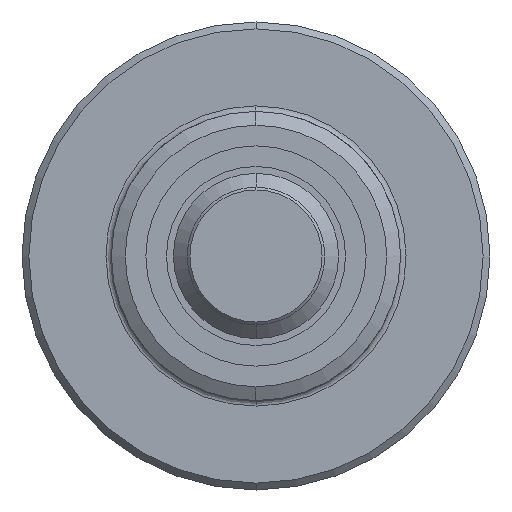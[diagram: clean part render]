
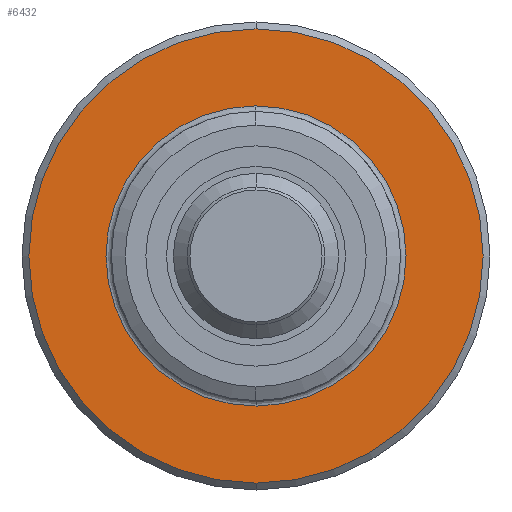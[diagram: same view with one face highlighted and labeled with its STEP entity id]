
A CAD part, left-side view. The second image highlights one B-rep face of the part: STEP entity #6432.
In plain terms, the highlighted planar face has unit normal (-1, 0, 0).
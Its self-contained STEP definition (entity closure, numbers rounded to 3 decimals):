
#3560=CARTESIAN_POINT('',(-4.,0.,
0.));
#3561=DIRECTION('',(1.,0.,0.));
#3562=DIRECTION('',(0.,0.,1.));
#3563=AXIS2_PLACEMENT_3D('',#3560,#3561,#3562);
#3568=CARTESIAN_POINT('',(-4.,0.,
0.));
#3569=DIRECTION('',(1.,0.,0.));
#3570=DIRECTION('',(0.,0.,-1.));
#3571=AXIS2_PLACEMENT_3D('',#3568,#3569,#3570);
#3576=CARTESIAN_POINT('',(-4.,0.,0.));
#3577=DIRECTION('',(-1.,0.,0.));
#3578=DIRECTION('',(0.,0.,1.));
#3579=AXIS2_PLACEMENT_3D('',#3576,#3577,#3578);
#3584=CARTESIAN_POINT('',(-4.,0.,0.));
#3585=DIRECTION('',(-1.,0.,0.));
#3586=DIRECTION('',(0.,0.01,1.));
#3587=AXIS2_PLACEMENT_3D('',#3584,#3585,#3586);
#3592=CARTESIAN_POINT('',(-4.,0.,0.));
#3593=DIRECTION('',(-1.,0.,0.));
#3594=DIRECTION('',(0.,0.,-1.));
#3595=AXIS2_PLACEMENT_3D('',#3592,#3593,#3594);
#3600=CARTESIAN_POINT('',(-4.,0.,0.));
#3601=DIRECTION('',(-1.,0.,0.));
#3602=DIRECTION('',(0.,-0.01,-1.));
#3603=AXIS2_PLACEMENT_3D('',#3600,#3601,#3602);
#5727=CARTESIAN_POINT('',(-4.,0.,
-16.5));
#5728=CARTESIAN_POINT('',(-4.,0.,
16.5));
#5729=VERTEX_POINT('',#5727);
#5730=VERTEX_POINT('',#5728);
#5731=CARTESIAN_POINT('',(-4.,0.,10.9));
#5732=CARTESIAN_POINT('',(-4.,0.11,10.899));
#5733=VERTEX_POINT('',#5731);
#5734=VERTEX_POINT('',#5732);
#5735=CARTESIAN_POINT('',(-4.,0.,-10.9));
#5736=VERTEX_POINT('',#5735);
#5737=CARTESIAN_POINT('',(-4.,-0.11,-10.899));
#5738=VERTEX_POINT('',#5737);
#6412=CARTESIAN_POINT('',(-4.,0.,0.));
#6413=DIRECTION('',(1.,0.,0.));
#6414=DIRECTION('',(0.,0.,1.));
#6415=AXIS2_PLACEMENT_3D('',#6412,#6413,#6414);
#6416=PLANE('',#6415);
#6418=ORIENTED_EDGE('',*,*,#6417,.T.);
#6419=ORIENTED_EDGE('',*,*,#6402,.T.);
#6420=EDGE_LOOP('',(#6418,#6419));
#6421=FACE_OUTER_BOUND('',#6420,.F.);
#6423=ORIENTED_EDGE('',*,*,#6422,.T.);
#6425=ORIENTED_EDGE('',*,*,#6424,.T.);
#6427=ORIENTED_EDGE('',*,*,#6426,.T.);
#6429=ORIENTED_EDGE('',*,*,#6428,.T.);
#6430=EDGE_LOOP('',(#6423,#6425,#6427,#6429));
#6431=FACE_BOUND('',#6430,.F.);
#3564=CIRCLE('',#3563,16.5);
#3572=CIRCLE('',#3571,16.5);
#3580=CIRCLE('',#3579,10.9);
#3588=CIRCLE('',#3587,10.9);
#3596=CIRCLE('',#3595,10.9);
#3604=CIRCLE('',#3603,10.9);
#6402=EDGE_CURVE('',#5729,#5730,#3572,.T.);
#6417=EDGE_CURVE('',#5730,#5729,#3564,.T.);
#6422=EDGE_CURVE('',#5733,#5734,#3580,.T.);
#6424=EDGE_CURVE('',#5734,#5736,#3588,.T.);
#6426=EDGE_CURVE('',#5736,#5738,#3596,.T.);
#6428=EDGE_CURVE('',#5738,#5733,#3604,.T.);
#6432=ADVANCED_FACE('',(#6421,#6431),#6416,.F.);
